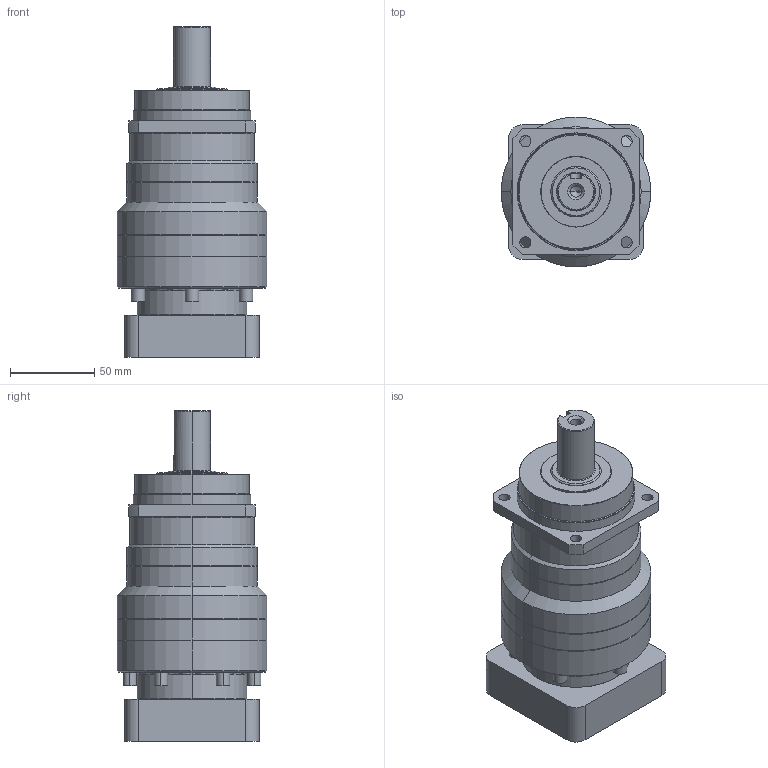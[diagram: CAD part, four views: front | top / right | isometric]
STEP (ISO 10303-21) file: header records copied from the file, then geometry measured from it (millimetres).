
FILE_DESCRIPTION (( 'STEP AP214' ), '1' );
FILE_NAME ('VRS075-L2-S2-P1 19-70-90-M6.STEP', '2023-09-01T00:43:44', ( '微软用户' ), ( '微软中国' ), 'SwSTEP 2.0', 'SolidWorks 2018', '' );
FILE_SCHEMA (( 'AUTOMOTIVE_DESIGN' ));
Length unit declared in the file: millimetre
Products named in the file (1): VRS075-L2-S2-P1 19-70-90-M6
Bounding box: 89 x 89 x 196.5 mm (x, y, z)
Volume: 776893.8 mm3; surface area: 76797.8 mm2
Topology: 1 solids, 1 shells, 193 faces, 457 edges, 285 vertices
Faces by surface type: plane 82, cylinder 70, cone 30, torus 11
Entity records: 5705 total; most frequent: CARTESIAN_POINT 1041, DIRECTION 1029, ORIENTED_EDGE 910, EDGE_CURVE 455, AXIS2_PLACEMENT_3D 389, VERTEX_POINT 285, VECTOR 251, LINE 251
